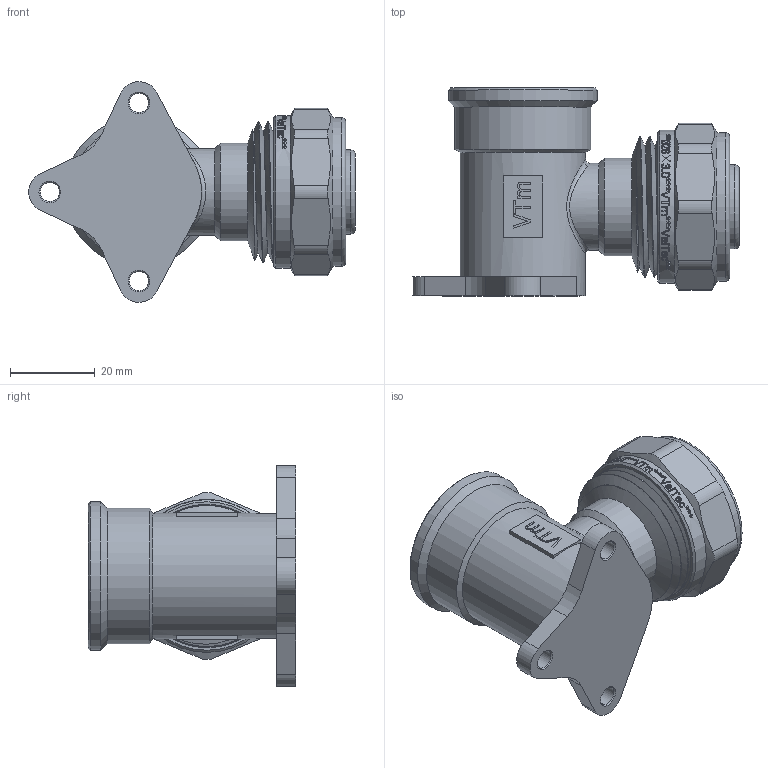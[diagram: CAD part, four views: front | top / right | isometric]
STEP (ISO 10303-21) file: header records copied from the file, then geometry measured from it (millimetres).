
FILE_DESCRIPTION(/* description */ (''),/* implementation_level */ '2;1');
FILE_NAME(/* name */ 'F:\Артём\00000\Работа удаленка\Обжимные фитинги\VTm.354.N.002605.stp',/* time_stamp */ '2020-08-10T15:26:23+03:00',/* author */ ('almis'),/* organization */ (''),/* preprocessor_version */ 'ST-DEVELOPER v18',/* originating_system */ 'Autodesk Inventor 2020',/* authorisation */ '');
FILE_SCHEMA (('AUTOMOTIVE_DESIGN { 1 0 10303 214 3 1 1 }'));
Length unit declared in the file: millimetre
Products named in the file (1): VTm.301.N.001605
Bounding box: 76.98 x 49 x 51.98 mm (x, y, z)
Volume: 32134.2 mm3; surface area: 24909.4 mm2
Topology: 1 solids, 1 shells, 789 faces, 2225 edges, 1500 vertices
Faces by surface type: bspline 397, plane 238, cylinder 102, cone 28, torus 24
Full cylindrical faces by diameter (mm): 4.5 x3, 15 x1, 17.4 x2, 19.8 x5, 20.5 x1, 23 x1, 24.1 x6, 24.516 x4, 25.435 x5, 26.2 x1, 26.7 x1, 27.7 x6, 28.5 x1, 28.7 x2, 29.5 x1, 30.5 x1, 32 x1, 33.3 x1, 35 x2, 36 x1
Entity records: 34417 total; most frequent: CARTESIAN_POINT 16510, ORIENTED_EDGE 4450, DIRECTION 2450, EDGE_CURVE 2225, VERTEX_POINT 1501, LINE 1000, VECTOR 1000, B_SPLINE_CURVE_WITH_KNOTS 877
